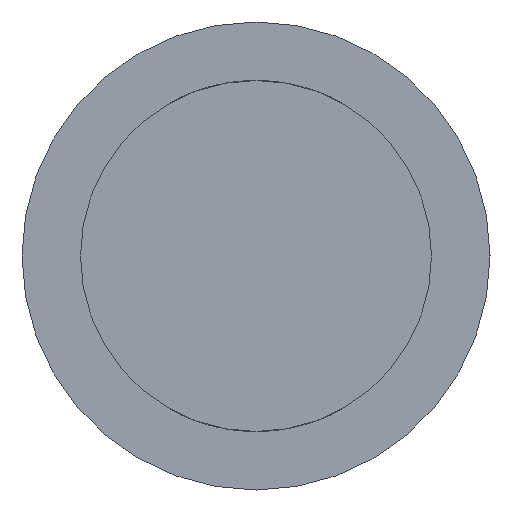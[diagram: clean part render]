
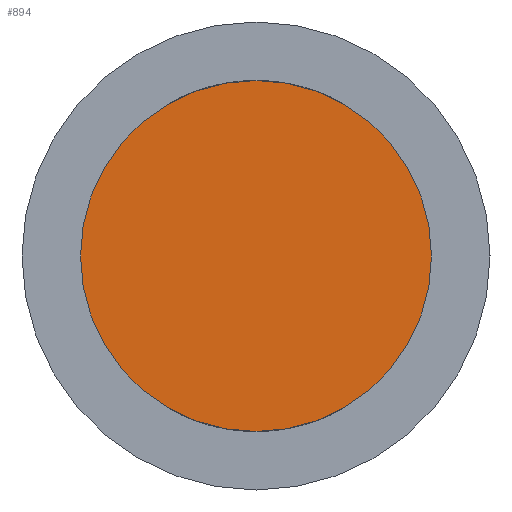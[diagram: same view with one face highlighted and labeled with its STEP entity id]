
A CAD part, left-side view. The second image highlights one B-rep face of the part: STEP entity #894.
In plain terms, the highlighted planar face has unit normal (-1, 0, 0).
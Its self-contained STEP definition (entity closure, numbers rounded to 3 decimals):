
#47 = VERTEX_POINT ( 'NONE', #837 ) ;
#192 = CARTESIAN_POINT ( 'NONE',  ( -66., 0., 0. ) ) ;
#253 = AXIS2_PLACEMENT_3D ( 'NONE', #192, #490, #730 ) ;
#315 = ORIENTED_EDGE ( 'NONE', *, *, #862, .F. ) ;
#368 = DIRECTION ( 'NONE',  ( -1., 0., 0. ) ) ;
#413 = CIRCLE ( 'NONE', #558, 6. ) ;
#417 = CARTESIAN_POINT ( 'NONE',  ( -66., 0., 6. ) ) ;
#433 = CIRCLE ( 'NONE', #253, 6. ) ;
#442 = DIRECTION ( 'NONE',  ( 0., 0., -1. ) ) ;
#446 = FACE_OUTER_BOUND ( 'NONE', #802, .T. ) ;
#483 = VERTEX_POINT ( 'NONE', #417 ) ;
#490 = DIRECTION ( 'NONE',  ( 1., 0., 0. ) ) ;
#541 = AXIS2_PLACEMENT_3D ( 'NONE', #1018, #368, #781 ) ;
#558 = AXIS2_PLACEMENT_3D ( 'NONE', #758, #1022, #442 ) ;
#581 = EDGE_CURVE ( 'NONE', #483, #47, #413, .T. ) ;
#730 = DIRECTION ( 'NONE',  ( 0., 0., -1. ) ) ;
#758 = CARTESIAN_POINT ( 'NONE',  ( -66., 0., 0. ) ) ;
#781 = DIRECTION ( 'NONE',  ( 0., 0., 1. ) ) ;
#802 = EDGE_LOOP ( 'NONE', ( #315, #840 ) ) ;
#837 = CARTESIAN_POINT ( 'NONE',  ( -66., 0., -6. ) ) ;
#840 = ORIENTED_EDGE ( 'NONE', *, *, #581, .F. ) ;
#859 = PLANE ( 'NONE',  #541 ) ;
#862 = EDGE_CURVE ( 'NONE', #47, #483, #433, .T. ) ;
#894 = ADVANCED_FACE ( 'NONE', ( #446 ), #859, .T. ) ;
#1018 = CARTESIAN_POINT ( 'NONE',  ( -66., 0., 0. ) ) ;
#1022 = DIRECTION ( 'NONE',  ( 1., 0., 0. ) ) ;
